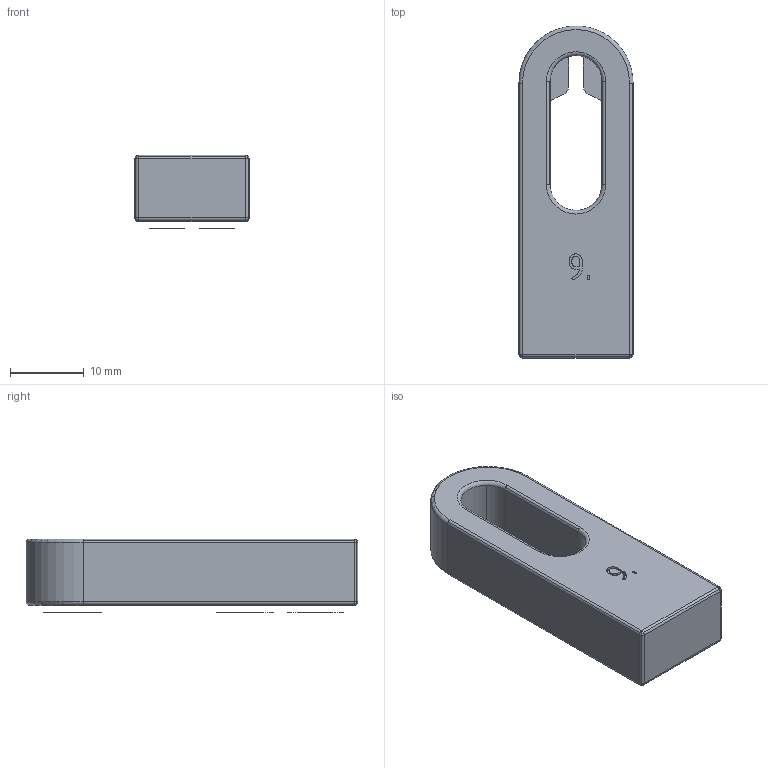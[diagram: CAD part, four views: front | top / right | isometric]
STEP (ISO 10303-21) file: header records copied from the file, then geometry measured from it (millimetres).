
FILE_DESCRIPTION(('STEP AP214'),'1');
FILE_NAME('BF-20240124-cad-shim1_9mm_light-02cbr.stp','2024-01-24T17:40:50',(' '),(' '),'Spatial InterOp 3D',' ',' ');
FILE_SCHEMA(('AUTOMOTIVE_DESIGN { 1 0 10303 214 1 1 1 1 }'));
Length unit declared in the file: metre
Products named in the file (1): Volumenkörper
Bounding box: 15.5 x 44.99 x 10 mm (x, y, z)
Volume: 3870.5 mm3; surface area: 3251 mm2
Topology: 1 solids, 7 shells, 262 faces, 697 edges, 444 vertices
Faces by surface type: cylinder 120, plane 46, extrusion 46, torus 42, sphere 8
Entity records: 8412 total; most frequent: CARTESIAN_POINT 1831, DIRECTION 1397, ORIENTED_EDGE 1326, EDGE_CURVE 689, AXIS2_PLACEMENT_3D 534, VERTEX_POINT 442, VECTOR 329, CIRCLE 314
